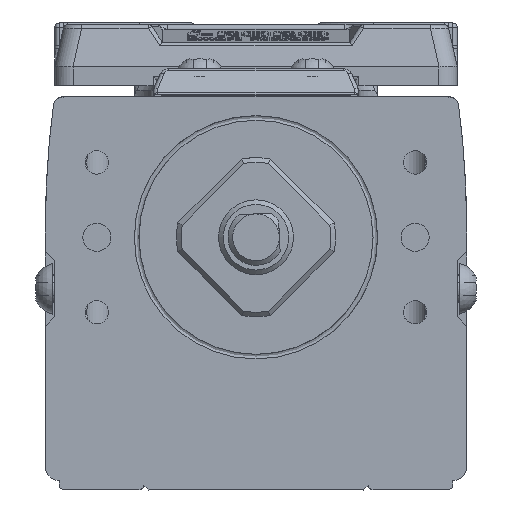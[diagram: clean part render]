
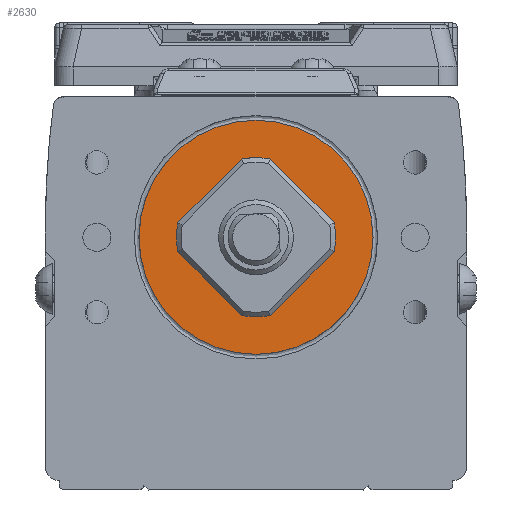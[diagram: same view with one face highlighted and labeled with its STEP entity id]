
A CAD part, left-side view. The second image highlights one B-rep face of the part: STEP entity #2630.
In plain terms, the highlighted planar face has unit normal (-1, 0, 0) as drawn and (0, 0, 1) by its records, which use the part's own axes.
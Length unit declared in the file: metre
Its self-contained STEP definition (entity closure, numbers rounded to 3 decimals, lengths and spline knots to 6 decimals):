
#2630=ADVANCED_FACE('',(#5930,#5931),#5932,.T.);
#5930=FACE_OUTER_BOUND('',#11262,.T.);
#5931=FACE_BOUND('',#11263,.T.);
#5932=PLANE('',#11264);
#11262=EDGE_LOOP('',(#19422));
#11263=EDGE_LOOP('',(#19423));
#11264=AXIS2_PLACEMENT_3D('',#19424,#19425,#19426);
#19422=ORIENTED_EDGE('',*,*,#28778,.T.);
#19423=ORIENTED_EDGE('',*,*,#30231,.F.);
#19424=CARTESIAN_POINT('',(0.000046,-0.005386,0.018));
#19425=DIRECTION('',(0.0,0.0,1.0));
#19426=DIRECTION('',(1.0,0.0,0.0));
#28778=EDGE_CURVE('',#33499,#33499,#33500,.T.);
#30231=EDGE_CURVE('',#35944,#35944,#35945,.T.);
#33499=VERTEX_POINT('',#40404);
#33500=CIRCLE('',#40405,0.0125);
#35944=VERTEX_POINT('',#44098);
#35945=CIRCLE('',#44099,0.004);
#40404=CARTESIAN_POINT('',(-0.0125,0.,0.018));
#40405=AXIS2_PLACEMENT_3D('',#50764,#50765,#50766);
#44098=CARTESIAN_POINT('',(0.004,0.0,0.018));
#44099=AXIS2_PLACEMENT_3D('',#52506,#52507,#52508);
#50764=CARTESIAN_POINT('',(0.0,0.,0.018));
#50765=DIRECTION('',(0.0,0.0,1.0));
#50766=DIRECTION('',(1.0,0.0,0.0));
#52506=CARTESIAN_POINT('',(0.0,0.0,0.018));
#52507=DIRECTION('',(0.0,0.0,1.0));
#52508=DIRECTION('',(-1.0,0.0,0.0));
